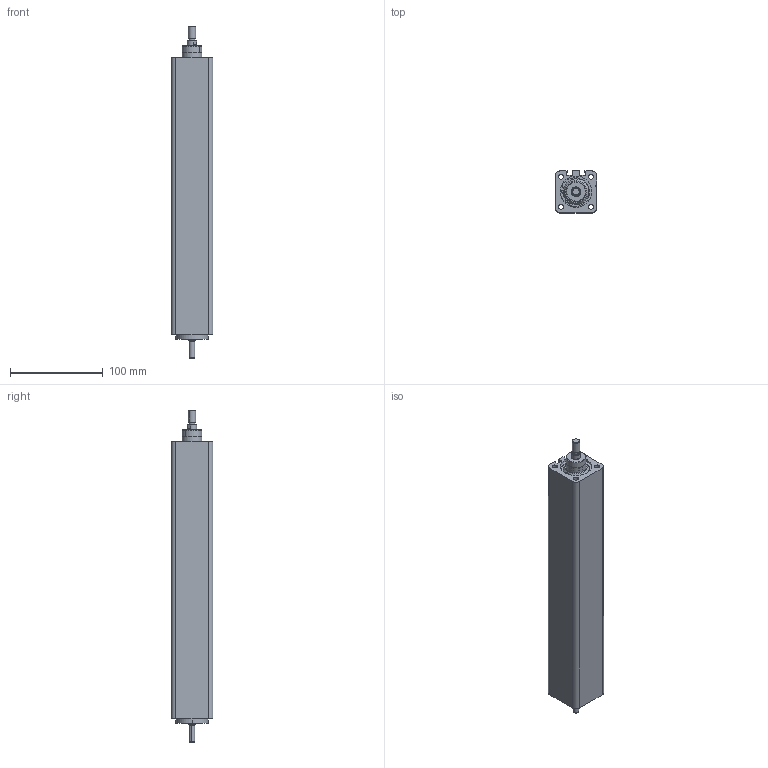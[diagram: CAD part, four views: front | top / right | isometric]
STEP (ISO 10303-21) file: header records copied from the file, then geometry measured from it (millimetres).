
FILE_DESCRIPTION (( 'STEP AP214' ), '1' );
FILE_NAME ('WLCA-032-0200 (3D).STEP', '2020-11-02T11:34:55', ( '' ), ( '' ), 'SwSTEP 2.0', 'SolidWorks 2016', '' );
FILE_SCHEMA (( 'AUTOMOTIVE_DESIGN' ));
Length unit declared in the file: millimetre
Products named in the file (3): Group1^WLCA-032-0200 (3D); WLCA-032-0200 (3D); Group2^WLCA-032-0200 (3D)
Assembly tree (2 placements, depth 2):
  WLCA-032-0200 (3D)
    Group1^WLCA-032-0200 (3D)
    Group2^WLCA-032-0200 (3D)
Bounding box: 45 x 45 x 358.9 mm (x, y, z)
Volume: 488590.5 mm3; surface area: 138891.1 mm2
Topology: 9 solids, 9 shells, 438 faces, 1104 edges, 724 vertices
Faces by surface type: plane 233, cylinder 88, bspline 85, cone 28, torus 4
Entity records: 19893 total; most frequent: CARTESIAN_POINT 7654, ORIENTED_EDGE 2208, DIRECTION 1856, EDGE_CURVE 1104, VERTEX_POINT 724, LINE 724, VECTOR 724, AXIS2_PLACEMENT_3D 566
